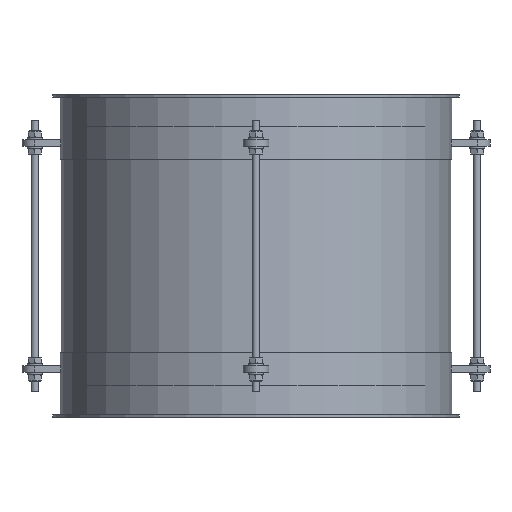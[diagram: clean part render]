
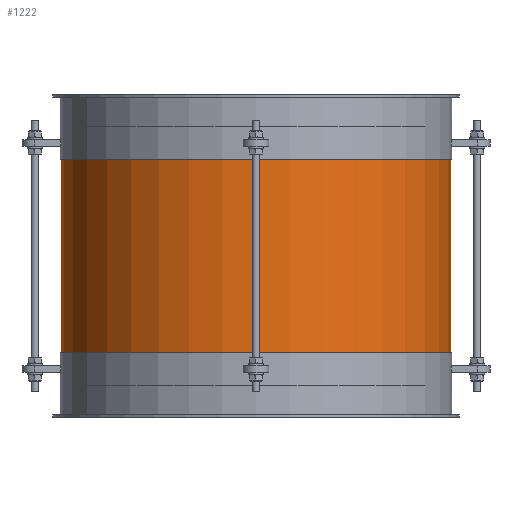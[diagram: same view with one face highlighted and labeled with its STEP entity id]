
A CAD part, front view. The second image highlights one B-rep face of the part: STEP entity #1222.
In plain terms, the highlighted cylindrical face has radius 150.75 mm (diameter 301.5 mm), a full revolution.
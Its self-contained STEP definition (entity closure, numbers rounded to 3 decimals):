
#1195=CARTESIAN_POINT('',(0.0,0.0,0.0));
#1196=DIRECTION('',(0.0,0.0,1.0));
#1197=DIRECTION('',(-1.0,0.0,0.0));
#1198=AXIS2_PLACEMENT_3D('',#1195,#1196,#1197);
#1199=CYLINDRICAL_SURFACE('',#1198,150.75);
#1200=CARTESIAN_POINT('',(150.75,0.,200.0));
#1201=VERTEX_POINT('',#1200);
#1202=CARTESIAN_POINT('',(0.0,0.0,200.0));
#1203=DIRECTION('',(0.0,0.0,-1.0));
#1204=DIRECTION('',(-1.0,0.0,0.0));
#1205=AXIS2_PLACEMENT_3D('',#1202,#1203,#1204);
#1206=CIRCLE('',#1205,150.75);
#1207=EDGE_CURVE('',#1201,#1201,#1206,.T.);
#1208=ORIENTED_EDGE('',*,*,#1207,.T.);
#1209=EDGE_LOOP('',(#1208));
#1210=FACE_OUTER_BOUND('',#1209,.T.);
#1211=CARTESIAN_POINT('',(150.75,0.,0.0));
#1212=VERTEX_POINT('',#1211);
#1213=CARTESIAN_POINT('',(0.0,0.0,0.0));
#1214=DIRECTION('',(0.0,0.0,-1.0));
#1215=DIRECTION('',(-1.0,0.0,0.0));
#1216=AXIS2_PLACEMENT_3D('',#1213,#1214,#1215);
#1217=CIRCLE('',#1216,150.75);
#1218=EDGE_CURVE('',#1212,#1212,#1217,.T.);
#1219=ORIENTED_EDGE('',*,*,#1218,.F.);
#1220=EDGE_LOOP('',(#1219));
#1221=FACE_BOUND('',#1220,.T.);
#1222=ADVANCED_FACE('',(#1210,#1221),#1199,.T.);
